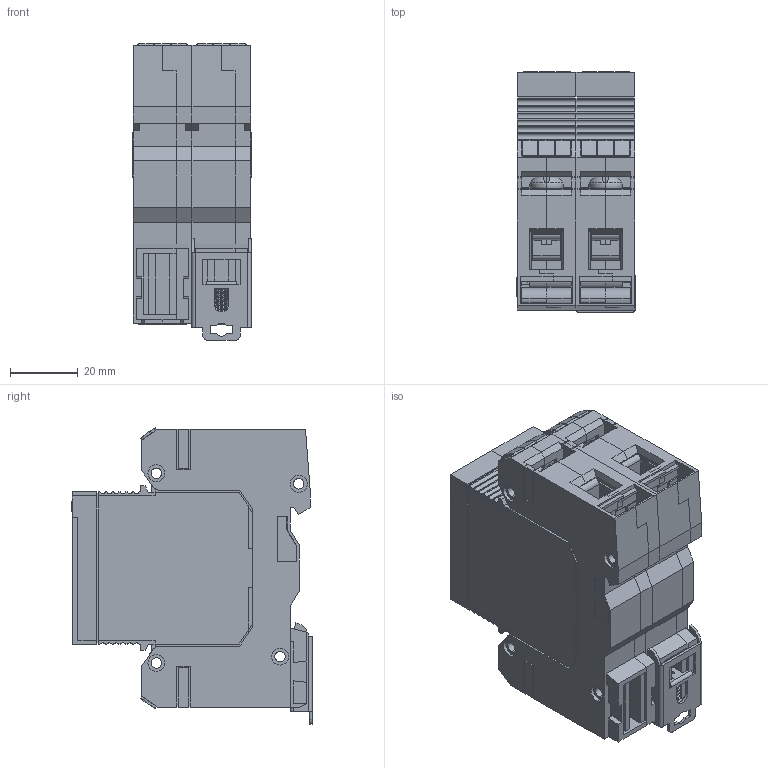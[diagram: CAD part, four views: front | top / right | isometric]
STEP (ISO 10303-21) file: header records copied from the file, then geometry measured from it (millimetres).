
FILE_DESCRIPTION (( 'STEP AP214' ), '1' );
FILE_NAME ('OptiIDn OM 2 瀁錌黟.STEP', '2022-12-05T08:18:39', ( '' ), ( '' ), 'SwSTEP 2.0', 'SolidWorks 2018', '' );
FILE_SCHEMA (( 'AUTOMOTIVE_DESIGN' ));
Length unit declared in the file: millimetre
Products named in the file (21): 鎔艜 03-024; Îñíîâàíèå ìîäóëÿ Ë 50-094(ïóñòîé ñ èçìåíåíûì ãàáàðèòîì)_„«ï ç¥àâ¥¦ ; Âñòàâêà êîäèðîâî÷íàÿ 50-082; Âûâîä 53-027 îáðåçàíûé äëÿ ñàéòà; Ïåðåìû÷êà 03-025; OptiIDn OM 2 瀁錌黟; 扻豵鵨 01 瀀嚦鍣; Ïðóæèíà çàùåëêè 13-007; Îñíîâàíèå ìîäóëÿ Ï 50-095 ïóñòîé; Çàùåëêà 11-010; Ñüåìíûé ìîäóëü 01 ïóñòîé; ﾂ鏆鮏 01; Êîëîäêà 03-039 ïîä íîâûé ãàáàðèòû; Êîäèðîâî÷íàÿ âñòàâêà; Çàãëóøêà ìîäóëÿ Ë 50-084; 署赅 01 矬耱铋; Ìåòêà 21-086; Ïëàñòèíà 52-040_Š2; Çàãëóøêà ìîäóëÿ Ï 50-083
Assembly tree (36 placements, depth 3):
  OptiIDn OM 2 瀁錌黟
    Îñíîâàíèå ìîäóëÿ Ë 50-094(ïóñòîé ñ èçìåíåíûì ãàáàðèòîì)_„«ï ç¥àâ¥¦ 
    Îñíîâàíèå ìîäóëÿ Ï 50-095 ïóñòîé
    Âûâîä 53-027 îáðåçàíûé äëÿ ñàéòà  x4
    Çàãëóøêà ìîäóëÿ Ë 50-084
    Êîëîäêà 03-039 ïîä íîâûé ãàáàðèòû  x4
    Âñòàâêà êîäèðîâî÷íàÿ 50-082  x2
    鎔艜 03-024  x4
    Ïëàñòèíà 52-040_Š2
    Ìåòêà 21-086  x4
    Ñüåìíûé ìîäóëü 01 ïóñòîé  x2
      扻豵鵨 01 瀀嚦鍣
      署赅 01 矬耱铋
      Êîäèðîâî÷íàÿ âñòàâêà
      ﾂ鏆鮏 01
      Ìåòêà 21-086
    Çàùåëêà 11-010
    Ïðóæèíà çàùåëêè 13-007
    Îñíîâàíèå ìîäóëÿ Ï 50-095 ïóñòîé
    Îñíîâàíèå ìîäóëÿ Ë 50-094(ïóñòîé ñ èçìåíåíûì ãàáàðèòîì)_„«ï ç¥àâ¥¦ 
    Çàãëóøêà ìîäóëÿ Ï 50-083
    Ïåðåìû÷êà 03-025
Bounding box: 35 x 70.98 x 87.56 mm (x, y, z)
Volume: 57554.4 mm3; surface area: 104236.1 mm2
Topology: 40 solids, 40 shells, 4096 faces, 11420 edges, 7436 vertices
Faces by surface type: plane 3329, cylinder 735, torus 16, bspline 14, cone 2
Entity records: 81323 total; most frequent: CARTESIAN_POINT 16300, ORIENTED_EDGE 13802, DIRECTION 12604, EDGE_CURVE 6901, VECTOR 6052, LINE 6052, VERTEX_POINT 4520, AXIS2_PLACEMENT_3D 3276
